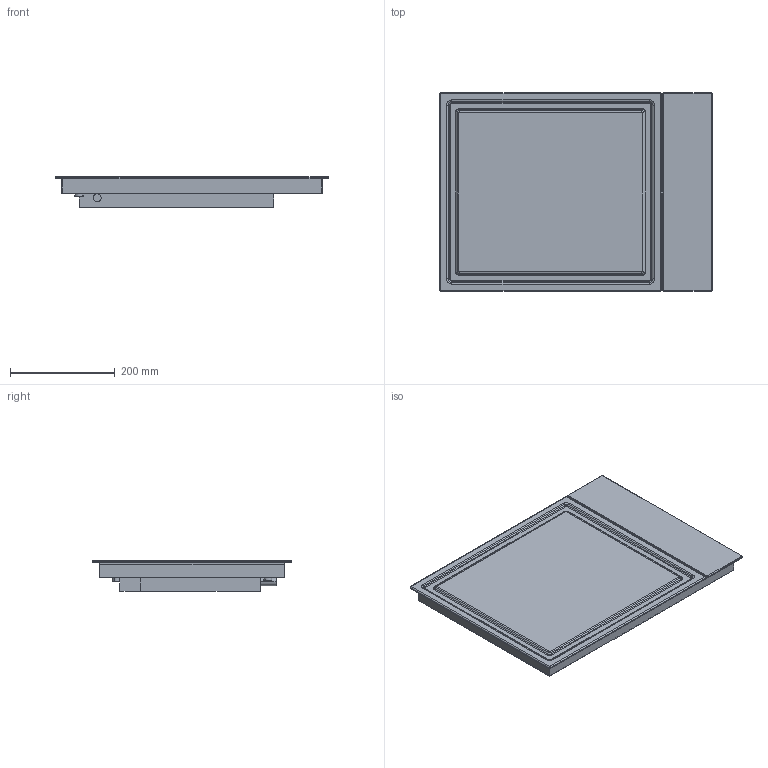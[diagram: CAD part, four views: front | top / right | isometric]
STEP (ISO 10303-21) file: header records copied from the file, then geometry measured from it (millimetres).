
FILE_DESCRIPTION(('CATIA V5 STEP','CAx-IF Rec.Pracs.--- Model Styling and Organization---1.2---2011-12-15'),'2;1');
FILE_NAME('d:\opendxmdata\jobs\0171455\0006_001_out\Simp_CS7632.stp','2017-12-12T09:29:59+00:00',('none'),('none'),'Version 5-6 Release 2012','CATIA V5 STEP AP214','none');
FILE_SCHEMA(('AUTOMOTIVE_DESIGN { 1 0 10303 214 1 1 1 1 }'));
Length unit declared in the file: millimetre
Products named in the file (1): Simp_CS7632
Bounding box: 520 x 378 x 59.09 mm (x, y, z)
Volume: 4398253.3 mm3; surface area: 905484.5 mm2
Topology: 9 solids, 9 shells, 152 faces, 336 edges, 209 vertices
Faces by surface type: plane 82, cylinder 38, torus 20, cone 8, sphere 4
Entity records: 4088 total; most frequent: CARTESIAN_POINT 729, ORIENTED_EDGE 672, DIRECTION 600, EDGE_CURVE 336, AXIS2_PLACEMENT_3D 246, VECTOR 220, LINE 220, VERTEX_POINT 208
